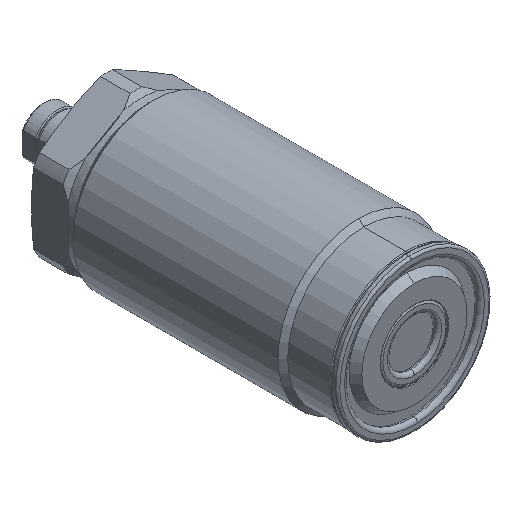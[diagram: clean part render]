
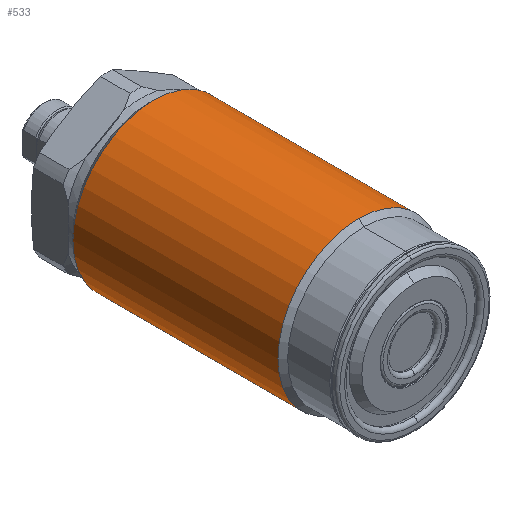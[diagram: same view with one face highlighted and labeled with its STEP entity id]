
A CAD part, isometric view. The second image highlights one B-rep face of the part: STEP entity #533.
In plain terms, the highlighted cylindrical face has radius 15 mm (diameter 30 mm), a full revolution.
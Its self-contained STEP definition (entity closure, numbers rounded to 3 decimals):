
#256=FACE_BOUND('',#816,.T.);
#257=FACE_BOUND('',#817,.T.);
#299=CYLINDRICAL_SURFACE('',#2212,15.);
#358=LINE('',#3625,#430);
#359=LINE('',#3630,#431);
#430=VECTOR('',#2749,1.);
#431=VECTOR('',#2752,1.);
#533=ADVANCED_FACE('',(#256,#257),#299,.T.);
#816=EDGE_LOOP('',(#1210));
#817=EDGE_LOOP('',(#1211,#1212,#1213,#1214,#1215,#1216));
#1210=ORIENTED_EDGE('',*,*,#1769,.T.);
#1211=ORIENTED_EDGE('',*,*,#1770,.T.);
#1212=ORIENTED_EDGE('',*,*,#1770,.F.);
#1213=ORIENTED_EDGE('',*,*,#1771,.T.);
#1214=ORIENTED_EDGE('',*,*,#1772,.T.);
#1215=ORIENTED_EDGE('',*,*,#1772,.F.);
#1216=ORIENTED_EDGE('',*,*,#1773,.T.);
#1539=VERTEX_POINT('',#3624);
#1540=VERTEX_POINT('',#3626);
#1541=VERTEX_POINT('',#3627);
#1542=VERTEX_POINT('',#3629);
#1543=VERTEX_POINT('',#3631);
#1769=EDGE_CURVE('',#1539,#1539,#1968,.T.);
#1770=EDGE_CURVE('',#1540,#1541,#358,.T.);
#1771=EDGE_CURVE('',#1540,#1542,#1969,.T.);
#1772=EDGE_CURVE('',#1542,#1543,#359,.T.);
#1773=EDGE_CURVE('',#1542,#1540,#1970,.T.);
#1968=CIRCLE('',#2209,15.);
#1969=CIRCLE('',#2210,15.);
#1970=CIRCLE('',#2211,15.);
#2209=AXIS2_PLACEMENT_3D('',#3623,#2747,#2748);
#2210=AXIS2_PLACEMENT_3D('',#3628,#2750,#2751);
#2211=AXIS2_PLACEMENT_3D('',#3632,#2753,#2754);
#2212=AXIS2_PLACEMENT_3D('',#3633,#2755,#2756);
#2747=DIRECTION('',(0.,-1.,0.));
#2748=DIRECTION('',(0.,0.,1.));
#2749=DIRECTION('',(0.,1.,0.));
#2750=DIRECTION('',(0.,1.,0.));
#2751=DIRECTION('',(0.,0.,1.));
#2752=DIRECTION('',(0.,1.,0.));
#2753=DIRECTION('',(0.,1.,0.));
#2754=DIRECTION('',(0.,0.,1.));
#2755=DIRECTION('',(0.,1.,0.));
#2756=DIRECTION('',(0.,0.,-1.));
#3623=CARTESIAN_POINT('',(0.,48.3,0.));
#3624=CARTESIAN_POINT('',(0.,48.3,15.));
#3625=CARTESIAN_POINT('',(0.,59.7,15.));
#3626=CARTESIAN_POINT('',(0.,10.3,15.));
#3627=CARTESIAN_POINT('',(0.,46.292,15.));
#3628=CARTESIAN_POINT('',(0.,10.3,0.));
#3629=CARTESIAN_POINT('',(0.,10.3,-15.));
#3630=CARTESIAN_POINT('',(0.,59.7,-15.));
#3631=CARTESIAN_POINT('',(0.,46.292,-15.));
#3632=CARTESIAN_POINT('',(0.,10.3,0.));
#3633=CARTESIAN_POINT('',(0.,59.7,0.));
